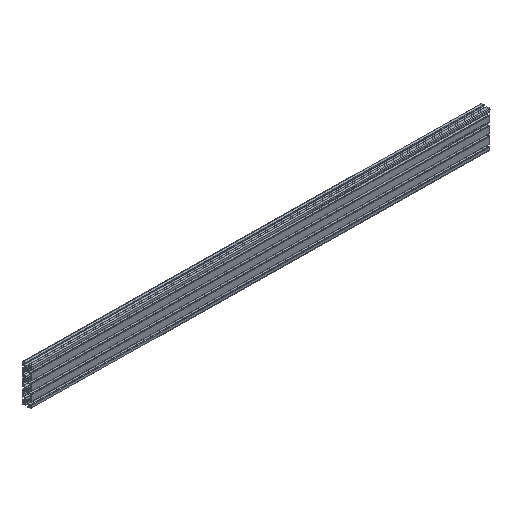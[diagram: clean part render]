
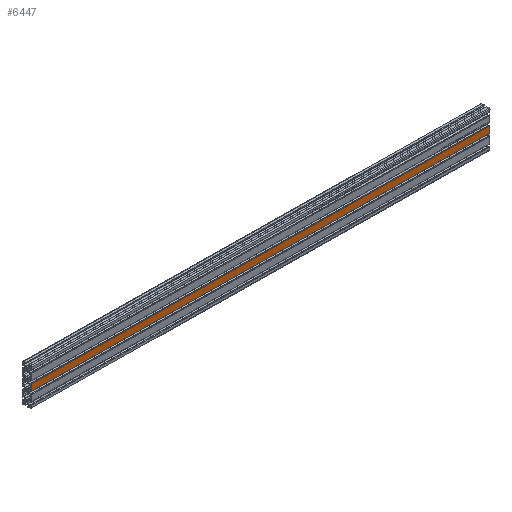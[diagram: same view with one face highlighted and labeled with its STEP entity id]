
A CAD part, isometric view. The second image highlights one B-rep face of the part: STEP entity #6447.
In plain terms, the highlighted planar face has unit normal (0, -1, 0).
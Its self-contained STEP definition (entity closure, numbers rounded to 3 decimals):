
#198 = DIRECTION ( 'NONE',  ( -0.012, 0., -1. ) ) ;
#237 = CARTESIAN_POINT ( 'NONE',  ( -0.085, -10., -6.799 ) ) ;
#721 = CARTESIAN_POINT ( 'NONE',  ( 0.085, -10., 6.799 ) ) ;
#820 = ORIENTED_EDGE ( 'NONE', *, *, #6891, .F. ) ;
#1285 = CARTESIAN_POINT ( 'NONE',  ( 1000.085, -10., -5.695 ) ) ;
#1551 = EDGE_CURVE ( 'NONE', #4843, #3043, #6159, .T. ) ;
#2205 = EDGE_CURVE ( 'NONE', #3043, #3801, #4690, .T. ) ;
#2777 = CARTESIAN_POINT ( 'NONE',  ( 999.915, -10., -19.294 ) ) ;
#2987 = LINE ( 'NONE', #2777, #4185 ) ;
#3043 = VERTEX_POINT ( 'NONE', #6862 ) ;
#3119 = VECTOR ( 'NONE', #198, 1000. ) ;
#3200 = AXIS2_PLACEMENT_3D ( 'NONE', #3244, #7359, #3854 ) ;
#3244 = CARTESIAN_POINT ( 'NONE',  ( 1000.085, -10., -5.695 ) ) ;
#3315 = ORIENTED_EDGE ( 'NONE', *, *, #2205, .T. ) ;
#3362 = DIRECTION ( 'NONE',  ( -1., 0., 0.012 ) ) ;
#3388 = ORIENTED_EDGE ( 'NONE', *, *, #7567, .F. ) ;
#3427 = EDGE_LOOP ( 'NONE', ( #3315, #3388, #820, #3792 ) ) ;
#3792 = ORIENTED_EDGE ( 'NONE', *, *, #1551, .T. ) ;
#3801 = VERTEX_POINT ( 'NONE', #237 ) ;
#3854 = DIRECTION ( 'NONE',  ( 0., 0., 1. ) ) ;
#4043 = CARTESIAN_POINT ( 'NONE',  ( 1000.085, -10., -5.695 ) ) ;
#4184 = VECTOR ( 'NONE', #7162, 1000. ) ;
#4185 = VECTOR ( 'NONE', #7481, 1000. ) ;
#4690 = LINE ( 'NONE', #721, #3119 ) ;
#4817 = CARTESIAN_POINT ( 'NONE',  ( 999.915, -10., -19.294 ) ) ;
#4843 = VERTEX_POINT ( 'NONE', #5254 ) ;
#4997 = VERTEX_POINT ( 'NONE', #4817 ) ;
#5003 = PLANE ( 'NONE',  #3200 ) ;
#5254 = CARTESIAN_POINT ( 'NONE',  ( 1000.085, -10., -5.695 ) ) ;
#5394 = FACE_OUTER_BOUND ( 'NONE', #3427, .T. ) ;
#5690 = LINE ( 'NONE', #1285, #4184 ) ;
#6159 = LINE ( 'NONE', #4043, #7535 ) ;
#6447 = ADVANCED_FACE ( 'NONE', ( #5394 ), #5003, .F. ) ;
#6862 = CARTESIAN_POINT ( 'NONE',  ( 0.085, -10., 6.799 ) ) ;
#6891 = EDGE_CURVE ( 'NONE', #4843, #4997, #5690, .T. ) ;
#7162 = DIRECTION ( 'NONE',  ( -0.012, 0., -1. ) ) ;
#7359 = DIRECTION ( 'NONE',  ( 0., 1., 0. ) ) ;
#7481 = DIRECTION ( 'NONE',  ( -1., 0., 0.012 ) ) ;
#7535 = VECTOR ( 'NONE', #3362, 1000. ) ;
#7567 = EDGE_CURVE ( 'NONE', #4997, #3801, #2987, .T. ) ;
